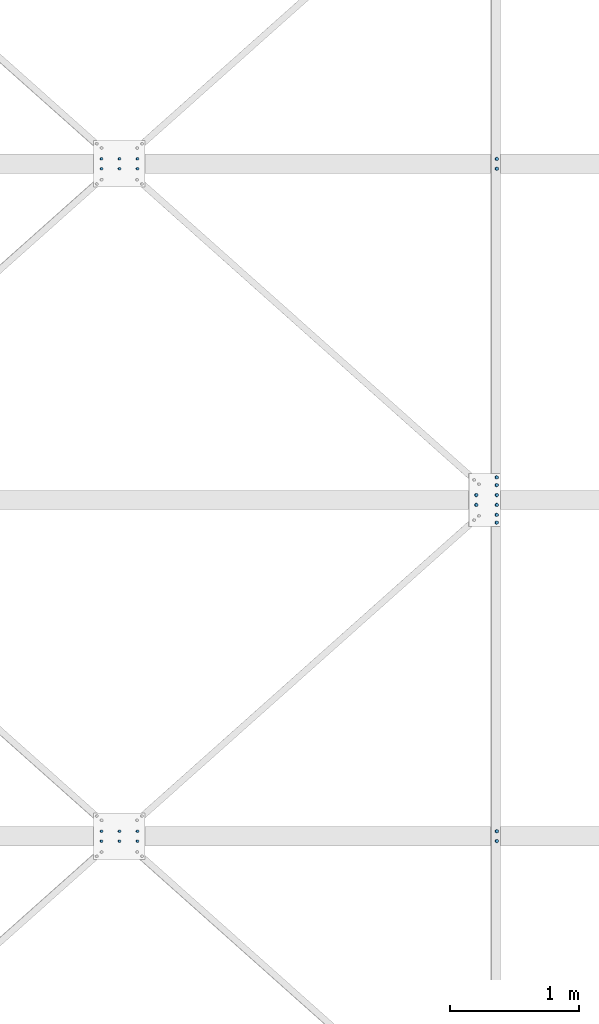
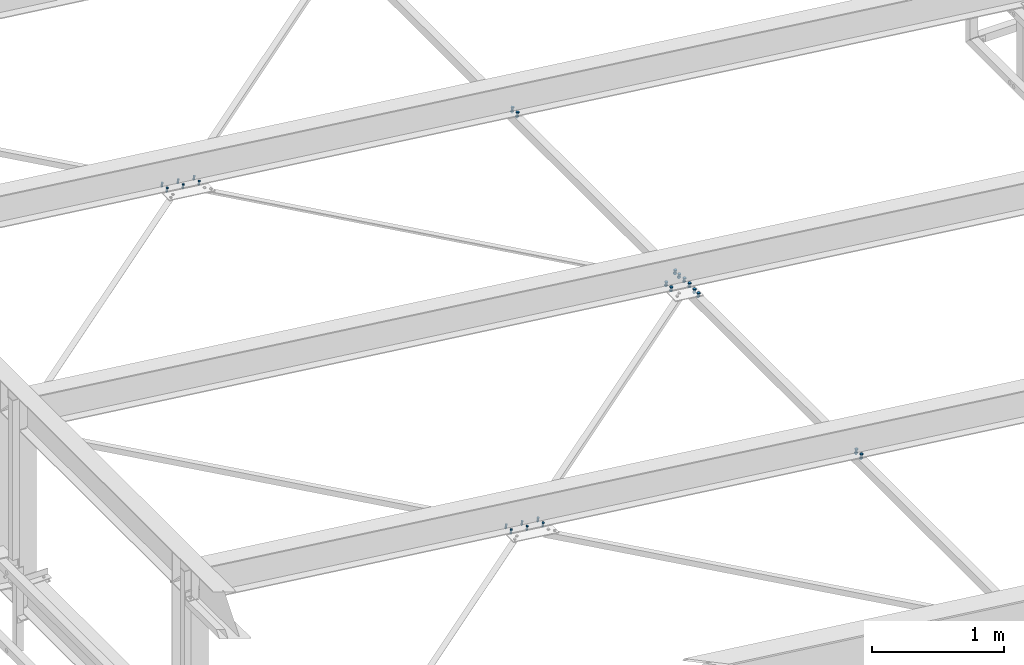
# One storey, part 154 of 3134: 7 mechanical fasteners, 6 elements without a shape of their own.
"""IFC2X3 building model written with IfcOpenShell, lengths in millimetres."""

import ifcopenshell
import ifcopenshell.guid

model = None  # the IFC model being written
_history = None  # IfcOwnerHistory: only IFC2X3 demands one
_inside = {}  # id of a spatial element -> (the spatial element, [elements in it])
_under = {}  # id of a project, library or spatial element -> (it, [spatial elements below it])
_declared = {}  # id of a project -> (the project, [libraries it declares])
_typed = {}  # id of a type object -> (the type object, [elements of that type])
_made_of = {}  # id of a material, layer set ... -> (it, [elements and type objects made of it])


def new_model(schema):
    """Start an empty IFC model of exactly this schema.

    Asked for "IFC4X3", IfcOpenShell would pick the latest addendum, in which some entities
    have other attributes; the version numbers below select the first issue.
    IFC2X3 requires an IfcOwnerHistory on every rooted entity: one is made here for all.
    """
    global model, _history
    if schema == "IFC4X3":
        model = ifcopenshell.file(schema_version=(4, 3, 0, 0))
    else:
        model = ifcopenshell.file(schema=schema)
    _inside.clear()
    _under.clear()
    _declared.clear()
    _typed.clear()
    _made_of.clear()
    _history = None
    if model.schema == "IFC2X3":
        org = make("IfcOrganization", Name="unknown")
        user = make(
            "IfcPersonAndOrganization",
            ThePerson=make("IfcPerson", FamilyName="unknown"),
            TheOrganization=org,
        )
        app = make(
            "IfcApplication",
            ApplicationDeveloper=org,
            Version="unknown",
            ApplicationFullName="unknown",
            ApplicationIdentifier="unknown",
        )
        _history = make(
            "IfcOwnerHistory",
            OwningUser=user,
            OwningApplication=app,
            ChangeAction="ADDED",
            CreationDate=0,
        )
    return model


def make(cls, **values):
    """One entity of the class cls with the attributes given. An attribute that is None is left unset."""
    return model.create_entity(
        cls, **{name: value for name, value in values.items() if value is not None}
    )


def rooted(cls, **values):
    """An entity with a GlobalId (a new one), such as an element, a storey or a relation."""
    return make(cls, GlobalId=ifcopenshell.guid.new(), OwnerHistory=_history, **values)


def si_unit(unit_type, name, prefix=None):
    """IfcSIUnit, for example si_unit("LENGTHUNIT", "METRE", prefix="MILLI")."""
    return make("IfcSIUnit", UnitType=unit_type, Prefix=prefix, Name=name)


def assignment(units):
    """IfcUnitAssignment: the units of a project."""
    return None if units is None else make("IfcUnitAssignment", Units=units)


def point(xyz):
    """IfcCartesianPoint."""
    return None if xyz is None else make("IfcCartesianPoint", Coordinates=xyz)


def direction(xyz):
    """IfcDirection."""
    return None if xyz is None else make("IfcDirection", DirectionRatios=xyz)


def frame(location, z_axis=None, x_axis=None):
    """IfcAxis2Placement3D, a coordinate frame: its origin and axes. An axis left out is left unset."""
    return make(
        "IfcAxis2Placement3D",
        Location=point(location),
        Axis=direction(z_axis),
        RefDirection=direction(x_axis),
    )


def origin_with_axes():
    """The frame at (0, 0, 0) with the z axis (0, 0, 1) and the x axis (1, 0, 0) written out."""
    return frame((0.0, 0.0, 0.0), z_axis=(0.0, 0.0, 1.0), x_axis=(1.0, 0.0, 0.0))


def place(relative_to, where):
    """IfcLocalPlacement: puts the frame where relative to a parent placement (None: the world)."""
    return make(
        "IfcLocalPlacement", PlacementRelTo=relative_to, RelativePlacement=where
    )


def context(
    kind, dimensions, precision=None, world=None, true_north=None, identifier=None
):
    """IfcGeometricRepresentationContext, for example the 3D "Model" context."""
    return make(
        "IfcGeometricRepresentationContext",
        ContextIdentifier=identifier,
        ContextType=kind,
        CoordinateSpaceDimension=dimensions,
        Precision=precision,
        WorldCoordinateSystem=world,
        TrueNorth=true_north,
    )


def subcontext(parent, identifier, kind, view, scale=None):
    """IfcGeometricRepresentationSubContext, for example "Body" below "Model"."""
    return make(
        "IfcGeometricRepresentationSubContext",
        ContextIdentifier=identifier,
        ContextType=kind,
        ParentContext=parent,
        TargetScale=scale,
        TargetView=view,
    )


def project(units=None, contexts=None):
    """IfcProject with its units and contexts."""
    return rooted(
        "IfcProject",
        Name="project",
        RepresentationContexts=contexts,
        UnitsInContext=assignment(units),
    )


def spatial(cls, under=None, at=None, **own):
    """A site, building, storey or space (cls), placed at a placement, below another one or the project."""
    s = rooted(cls, ObjectPlacement=at, **own)
    if under is not None:
        _under.setdefault(under.id(), (under, []))[1].append(s)
    return s


def faces_of(points, faces, orient=None, outer=None):
    """IfcFace entities. A face is a list of loops; a loop is a list of indices into points, from 0.

    orient and outer hold one flag for each loop. By default every Orientation is true, the
    first loop of a face is its IfcFaceOuterBound and the others are IfcFaceBound.
    """
    made = []
    for i, loops in enumerate(faces):
        bounds = []
        for j, loop in enumerate(loops):
            is_outer = j == 0 if outer is None else outer[i][j]
            bounds.append(
                make(
                    "IfcFaceOuterBound" if is_outer else "IfcFaceBound",
                    Bound=make("IfcPolyLoop", Polygon=[points[k] for k in loop]),
                    Orientation=True if orient is None else orient[i][j],
                )
            )
        made.append(make("IfcFace", Bounds=bounds))
    return made


def faceted_brep(points, faces, orient=None, outer=None, voids=None):
    """IfcFacetedBrep: a solid bounded by flat faces; with voids (closed shells), ...WithVoids."""
    shared = [point(p) for p in points]
    hull = make("IfcClosedShell", CfsFaces=faces_of(shared, faces, orient, outer))
    if voids is None:
        return make("IfcFacetedBrep", Outer=hull)
    return make(
        "IfcFacetedBrepWithVoids",
        Outer=hull,
        Voids=[
            make(cls, CfsFaces=faces_of(shared, fs, o, b)) for cls, fs, o, b in voids
        ],
    )


def shape(context_of_items, identifier, shape_type, items):
    """IfcShapeRepresentation: the items that make up one representation, for example the "Body"."""
    return make(
        "IfcShapeRepresentation",
        ContextOfItems=context_of_items,
        RepresentationIdentifier=identifier,
        RepresentationType=shape_type,
        Items=items,
    )


def source(mapping_origin, context_of_items, identifier, shape_type, items):
    """IfcRepresentationMap: a shape defined once, which mapped items show again and again."""
    return make(
        "IfcRepresentationMap",
        MappingOrigin=mapping_origin,
        MappedRepresentation=shape(context_of_items, identifier, shape_type, items),
    )


def transform(
    local_origin,
    x_axis=None,
    y_axis=None,
    z_axis=None,
    scale=None,
    scale2=None,
    scale3=None,
    uniform=True,
):
    """IfcCartesianTransformationOperator3D, or its non-uniform kind. x_axis, y_axis, z_axis: its Axis1, 2, 3."""
    if uniform:
        return make(
            "IfcCartesianTransformationOperator3D",
            Axis1=direction(x_axis),
            Axis2=direction(y_axis),
            LocalOrigin=point(local_origin),
            Scale=scale,
            Axis3=direction(z_axis),
        )
    return make(
        "IfcCartesianTransformationOperator3DnonUniform",
        Axis1=direction(x_axis),
        Axis2=direction(y_axis),
        LocalOrigin=point(local_origin),
        Scale=scale,
        Axis3=direction(z_axis),
        Scale2=scale2,
        Scale3=scale3,
    )


def mapped(mapping_source, mapping_target):
    """IfcMappedItem: shows the shape of a source again, moved by a transform."""
    return make(
        "IfcMappedItem", MappingSource=mapping_source, MappingTarget=mapping_target
    )


def material(Name=None, Category=None):
    """IfcMaterial."""
    return make("IfcMaterial", Name=Name, Category=Category)


def made_of(thing, what):
    """Note that an element or type object is made of a material, layer set ...; save() writes the relation."""
    if what is not None:
        _made_of.setdefault(what.id(), (what, []))[1].append(thing)
    return thing


def type_object(cls, material=None, **own):
    """A type object (cls), such as IfcWallType, which elements share."""
    return made_of(rooted(cls, **own), material)


def element(
    cls,
    number,
    at=None,
    inside=None,
    cuts=None,
    type_object=None,
    material=None,
    context=None,
    identifier="Body",
    shape_type=None,
    held_by="IfcProductDefinitionShape",
    body=None,
    shapes=None,
    **own,
):
    """One element of the class cls, such as IfcWall. Its Tag is "e" and its number.

    at: its placement. inside: the storey or other place that contains it. cuts: it is an
    opening in that element (IfcRelVoidsElement). A single representation is given by context,
    identifier, shape_type and body (its items); several are given by shapes. held_by: the class
    of the entity that holds the representations. save() writes the other relations.
    """
    e = rooted(cls, Tag="e%d" % number, ObjectPlacement=at, **own)
    if body is not None:
        shapes = [shape(context, identifier, shape_type, body)]
    if shapes is not None:
        e.Representation = make(held_by, Representations=shapes)
    if inside is not None:
        _inside.setdefault(inside.id(), (inside, []))[1].append(e)
    if cuts is not None:
        rooted(
            "IfcRelVoidsElement", RelatingBuildingElement=cuts, RelatedOpeningElement=e
        )
    if type_object is not None:
        _typed.setdefault(type_object.id(), (type_object, []))[1].append(e)
    return made_of(e, material)


def aggregate(whole, parts):
    """IfcRelAggregates: a whole, such as a stair, and the parts it consists of."""
    return rooted("IfcRelAggregates", RelatingObject=whole, RelatedObjects=parts)


def save(model, path):
    """Write the relations noted so far, then the file.

    IfcRelAggregates (storeys below a building ...), IfcRelContainedInSpatialStructure (elements
    in a storey), IfcRelDefinesByType, IfcRelAssociatesMaterial and IfcRelDeclares: one each for
    every whole, place, type object, material and project.
    """
    for whole, parts in _under.values():
        aggregate(whole, parts)
    for where, things in _inside.values():
        rooted(
            "IfcRelContainedInSpatialStructure",
            RelatedElements=things,
            RelatingStructure=where,
        )
    for kind, things in _typed.values():
        rooted("IfcRelDefinesByType", RelatedObjects=things, RelatingType=kind)
    for what, things in _made_of.values():
        rooted("IfcRelAssociatesMaterial", RelatedObjects=things, RelatingMaterial=what)
    for by, libraries in _declared.values():
        rooted("IfcRelDeclares", RelatingContext=by, RelatedDefinitions=libraries)
    model.write(path)


model = new_model("IFC2X3")

# Units and contexts
model_context = context("Model", 3, precision=1e-05, world=origin_with_axes())
body_context = subcontext(model_context, "Body", "Model", "MODEL_VIEW")
ifc_project = project(units=[si_unit("LENGTHUNIT", "METRE", prefix="MILLI"), si_unit("AREAUNIT", "SQUARE_METRE"), si_unit("VOLUMEUNIT", "CUBIC_METRE"), si_unit("MASSUNIT", "GRAM", prefix="KILO"), si_unit("TIMEUNIT", "SECOND"), si_unit("PLANEANGLEUNIT", "RADIAN"), si_unit("SOLIDANGLEUNIT", "STERADIAN"), si_unit("THERMODYNAMICTEMPERATUREUNIT", "DEGREE_CELSIUS"), si_unit("LUMINOUSINTENSITYUNIT", "LUMEN")], contexts=[model_context])

# Site, building, storey
site_placement = place(None, origin_with_axes())
site = spatial("IfcSite", under=ifc_project, at=site_placement, CompositionType="ELEMENT")
building_placement = place(site_placement, origin_with_axes())
building = spatial("IfcBuilding", under=site, at=building_placement, Name="Undefined", CompositionType="ELEMENT")
storey_placement = place(building_placement, origin_with_axes())
storey = spatial("IfcBuildingStorey", under=building, at=storey_placement, Name="Undefined", CompositionType="ELEMENT", Elevation=0.0)

# Assembly, mechanical fastener
assembly_1_placement = place(storey_placement, origin_with_axes())
assembly_1 = element("IfcElementAssembly", 1, at=assembly_1_placement, inside=storey, Name="300", AssemblyPlace="NOTDEFINED", PredefinedType="RIGID_FRAME")
ifc_material = material(Name="8.8")
mechanical_fastener_type = type_object("IfcMechanicalFastenerType", Name="Bolt assembly")
shared_shape_1 = source(origin_with_axes(), body_context, "Body", "Brep", [
    faceted_brep([(13.856406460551, -19.199990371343, 0.0), (6.92820323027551, -19.199990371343, 12.0), (-6.92820323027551, -19.199990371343, 12.0), (-13.856406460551, -19.199990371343, 1.69692038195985e-15), (-6.92820323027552, -19.199990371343, -12.0), (6.9282032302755, -19.199990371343, -12.0), (6.9282032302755, -9.19999037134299, -12.0), (-6.92820323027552, -9.19999037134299, -12.0), (-13.856406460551, -9.19999037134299, 1.69692038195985e-15), (-6.92820323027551, -9.19999037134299, 12.0), (6.92820323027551, -9.19999037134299, 12.0), (13.856406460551, -9.19999037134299, 0.0), (8.0, -9.19999037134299, 0.0), (6.92820323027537, -9.19999037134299, 4.00000000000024), (3.99999999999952, -9.19999037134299, 6.92820323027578), (-8.29068785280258e-13, -9.19999037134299, 8.0), (-4.00000000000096, -9.19999037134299, 6.92820323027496), (-6.9282032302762, -9.19999037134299, 3.99999999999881), (-8.0, -9.19999037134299, -1.65813757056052e-12), (-6.92820323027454, -9.19999037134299, -4.00000000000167), (-3.99999999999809, -9.19999037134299, -6.92820323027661), (2.47832457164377e-12, -9.19999037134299, -8.0), (4.00000000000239, -9.19999037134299, -6.92820323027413), (6.92820323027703, -9.19999037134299, -3.99999999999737), (6.92820323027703, 25.800009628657, -3.99999999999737), (4.00000000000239, 25.800009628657, -6.92820323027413), (2.47832457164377e-12, 25.800009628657, -8.0), (-3.99999999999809, 25.800009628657, -6.92820323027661), (-6.92820323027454, 25.800009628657, -4.00000000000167), (-8.0, 25.800009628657, -1.65813757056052e-12), (-6.9282032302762, 25.800009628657, 3.99999999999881), (-4.00000000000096, 25.800009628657, 6.92820323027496), (-8.29068785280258e-13, 25.800009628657, 8.0), (3.99999999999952, 25.800009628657, 6.92820323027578), (6.92820323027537, 25.800009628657, 4.00000000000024), (8.0, 25.800009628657, 0.0), (13.856406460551, 8.00000637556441, 0.0), (6.92820323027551, 8.00000637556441, 12.0), (-6.92820323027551, 8.00000637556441, 12.0), (-13.856406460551, 8.00000637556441, 1.69692038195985e-15), (-6.92820323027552, 8.00000637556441, -12.0), (6.9282032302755, 8.00000637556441, -12.0), (6.9282032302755, 21.0000063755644, -12.0), (-6.92820323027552, 21.0000063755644, -12.0), (-13.856406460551, 21.0000063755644, 1.69692038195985e-15), (-6.92820323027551, 21.0000063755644, 12.0), (6.92820323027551, 21.0000063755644, 12.0), (13.856406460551, 21.0000063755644, 0.0)], [[[0, 1, 2, 3, 4, 5]], [[6, 7, 8, 9, 10, 11]], [[0, 11, 10, 1]], [[1, 10, 9, 2]], [[2, 9, 8, 3]], [[3, 8, 7, 4]], [[4, 7, 6, 5]], [[5, 6, 11, 0]], [[12, 13, 14, 15, 16, 17, 18, 19, 20, 21, 22, 23]], [[24, 25, 26, 27, 28, 29, 30, 31, 32, 33, 34, 35]], [[12, 35, 34, 13]], [[13, 34, 33, 14]], [[14, 33, 32, 15]], [[15, 32, 31, 16]], [[16, 31, 30, 17]], [[17, 30, 29, 18]], [[18, 29, 28, 19]], [[19, 28, 27, 20]], [[20, 27, 26, 21]], [[21, 26, 25, 22]], [[22, 25, 24, 23]], [[23, 24, 35, 12]], [[36, 37, 38, 39, 40, 41]], [[42, 43, 44, 45, 46, 47]], [[36, 47, 46, 37]], [[37, 46, 45, 38]], [[38, 45, 44, 39]], [[39, 44, 43, 40]], [[40, 43, 42, 41]], [[41, 42, 47, 36]]]),
    faceted_brep([(9.0, -0.1, 0.0), (7.79422863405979, -0.1, 4.50000000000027), (4.49999999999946, -0.1, 7.79422863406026), (-9.3270238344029e-13, -0.1, 9.0), (-4.50000000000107, -0.1, 7.79422863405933), (-7.79422863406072, -0.1, 4.49999999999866), (-9.0, -0.1, -1.86540476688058e-12), (-7.79422863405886, -0.1, -4.50000000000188), (-4.49999999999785, -0.1, -7.79422863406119), (2.78811514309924e-12, -0.1, -9.0), (4.50000000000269, -0.1, -7.7942286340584), (7.79422863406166, -0.1, -4.49999999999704), (7.79422863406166, 8.00000000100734, -4.49999999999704), (4.50000000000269, 8.00000000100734, -7.7942286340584), (2.78811514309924e-12, 8.00000000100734, -9.0), (-4.49999999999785, 8.00000000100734, -7.79422863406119), (-7.79422863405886, 8.00000000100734, -4.50000000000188), (-9.0, 8.00000000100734, -1.86540476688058e-12), (-7.79422863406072, 8.00000000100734, 4.49999999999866), (-4.50000000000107, 8.00000000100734, 7.79422863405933), (-9.3270238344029e-13, 8.00000000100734, 9.0), (4.49999999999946, 8.00000000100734, 7.79422863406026), (7.79422863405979, 8.00000000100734, 4.50000000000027), (9.0, 8.00000000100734, 0.0), (9.0, -9.09999037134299, 0.0), (7.79422863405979, -9.09999037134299, 4.50000000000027), (4.49999999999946, -9.09999037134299, 7.79422863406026), (-9.3270238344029e-13, -9.09999037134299, 9.0), (-4.50000000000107, -9.09999037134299, 7.79422863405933), (-7.79422863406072, -9.09999037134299, 4.49999999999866), (-9.0, -9.09999037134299, -1.86540476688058e-12), (-7.79422863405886, -9.09999037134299, -4.50000000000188), (-4.49999999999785, -9.09999037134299, -7.79422863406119), (2.78811514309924e-12, -9.09999037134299, -9.0), (4.50000000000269, -9.09999037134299, -7.7942286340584), (7.79422863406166, -9.09999037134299, -4.49999999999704), (7.79422863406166, 0.100000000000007, -4.49999999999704), (4.50000000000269, 0.100000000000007, -7.7942286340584), (2.78811514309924e-12, 0.100000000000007, -9.0), (-4.49999999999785, 0.100000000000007, -7.79422863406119), (-7.79422863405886, 0.100000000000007, -4.50000000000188), (-9.0, 0.100000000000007, -1.86540476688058e-12), (-7.79422863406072, 0.100000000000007, 4.49999999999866), (-4.50000000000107, 0.100000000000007, 7.79422863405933), (-9.3270238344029e-13, 0.100000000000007, 9.0), (4.49999999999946, 0.100000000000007, 7.79422863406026), (7.79422863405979, 0.100000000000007, 4.50000000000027), (9.0, 0.100000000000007, 0.0)], [[[0, 1, 2, 3, 4, 5, 6, 7, 8, 9, 10, 11]], [[12, 13, 14, 15, 16, 17, 18, 19, 20, 21, 22, 23]], [[0, 23, 22, 1]], [[1, 22, 21, 2]], [[2, 21, 20, 3]], [[3, 20, 19, 4]], [[4, 19, 18, 5]], [[5, 18, 17, 6]], [[6, 17, 16, 7]], [[7, 16, 15, 8]], [[8, 15, 14, 9]], [[9, 14, 13, 10]], [[10, 13, 12, 11]], [[11, 12, 23, 0]], [[24, 25, 26, 27, 28, 29, 30, 31, 32, 33, 34, 35]], [[36, 37, 38, 39, 40, 41, 42, 43, 44, 45, 46, 47]], [[24, 47, 46, 25]], [[25, 46, 45, 26]], [[26, 45, 44, 27]], [[27, 44, 43, 28]], [[28, 43, 42, 29]], [[29, 42, 41, 30]], [[30, 41, 40, 31]], [[31, 40, 39, 32]], [[32, 39, 38, 33]], [[33, 38, 37, 34]], [[34, 37, 36, 35]], [[35, 36, 47, 24]]]),
])
mechanical_fastener_1_placement = place(assembly_1_placement, frame((49958.5751064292, 24612.0, 4816.43281405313), z_axis=(-0.992623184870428, 0.0, 0.121240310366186), x_axis=(0.0, 1.0, 0.0)))
mechanical_fastener_1 = element("IfcMechanicalFastener", 2, at=mechanical_fastener_1_placement, type_object=mechanical_fastener_type, material=ifc_material, Name="Bolt assembly", NominalDiameter=16.0, NominalLength=35.0, context=body_context, shape_type="MappedRepresentation", body=[
    mapped(shared_shape_1, transform((0.0, -5.32963895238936e-10, -79.9999999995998))),
    mapped(shared_shape_1, transform((76.0, -5.32963895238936e-10, -79.9999999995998))),
    mapped(shared_shape_1, transform((0.0, 5.3114490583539e-10, 79.9999999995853))),
    mapped(shared_shape_1, transform((76.0, 5.3114490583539e-10, 79.9999999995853))),
])
aggregate(assembly_1, [mechanical_fastener_1])

assembly_2_placement = place(storey_placement, origin_with_axes())
assembly_2 = element("IfcElementAssembly", 3, at=assembly_2_placement, inside=storey, AssemblyPlace="NOTDEFINED", PredefinedType="RIGID_FRAME")
shared_shape_2 = source(origin_with_axes(), body_context, "Body", "Brep", [
    faceted_brep([(13.856406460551, -19.199990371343, 0.0), (6.92820323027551, -19.199990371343, 12.0), (-6.92820323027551, -19.199990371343, 12.0), (-13.856406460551, -19.199990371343, 1.69692038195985e-15), (-6.92820323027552, -19.199990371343, -12.0), (6.9282032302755, -19.199990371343, -12.0), (6.9282032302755, -9.19999037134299, -12.0), (-6.92820323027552, -9.19999037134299, -12.0), (-13.856406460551, -9.19999037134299, 1.69692038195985e-15), (-6.92820323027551, -9.19999037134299, 12.0), (6.92820323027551, -9.19999037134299, 12.0), (13.856406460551, -9.19999037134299, 0.0), (8.0, -9.19999037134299, 0.0), (6.92820323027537, -9.19999037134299, 4.00000000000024), (3.99999999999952, -9.19999037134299, 6.92820323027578), (-8.29068785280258e-13, -9.19999037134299, 8.0), (-4.00000000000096, -9.19999037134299, 6.92820323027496), (-6.9282032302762, -9.19999037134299, 3.99999999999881), (-8.0, -9.19999037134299, -1.65813757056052e-12), (-6.92820323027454, -9.19999037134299, -4.00000000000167), (-3.99999999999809, -9.19999037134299, -6.92820323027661), (2.47832457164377e-12, -9.19999037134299, -8.0), (4.00000000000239, -9.19999037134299, -6.92820323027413), (6.92820323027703, -9.19999037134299, -3.99999999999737), (6.92820323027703, 35.8000002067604, -3.99999999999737), (4.00000000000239, 35.8000002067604, -6.92820323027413), (2.47832457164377e-12, 35.8000002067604, -8.0), (-3.99999999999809, 35.8000002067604, -6.92820323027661), (-6.92820323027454, 35.8000002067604, -4.00000000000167), (-8.0, 35.8000002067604, -1.65813757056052e-12), (-6.9282032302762, 35.8000002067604, 3.99999999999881), (-4.00000000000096, 35.8000002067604, 6.92820323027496), (-8.29068785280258e-13, 35.8000002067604, 8.0), (3.99999999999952, 35.8000002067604, 6.92820323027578), (6.92820323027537, 35.8000002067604, 4.00000000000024), (8.0, 35.8000002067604, 0.0), (13.856406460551, 14.9999995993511, 0.0), (6.92820323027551, 14.9999995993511, 12.0), (-6.92820323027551, 14.9999995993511, 12.0), (-13.856406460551, 14.9999995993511, 1.69692038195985e-15), (-6.92820323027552, 14.9999995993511, -12.0), (6.9282032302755, 14.9999995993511, -12.0), (6.9282032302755, 27.9999995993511, -12.0), (-6.92820323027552, 27.9999995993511, -12.0), (-13.856406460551, 27.9999995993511, 1.69692038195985e-15), (-6.92820323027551, 27.9999995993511, 12.0), (6.92820323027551, 27.9999995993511, 12.0), (13.856406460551, 27.9999995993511, 0.0)], [[[0, 1, 2, 3, 4, 5]], [[6, 7, 8, 9, 10, 11]], [[0, 11, 10, 1]], [[1, 10, 9, 2]], [[2, 9, 8, 3]], [[3, 8, 7, 4]], [[4, 7, 6, 5]], [[5, 6, 11, 0]], [[12, 13, 14, 15, 16, 17, 18, 19, 20, 21, 22, 23]], [[24, 25, 26, 27, 28, 29, 30, 31, 32, 33, 34, 35]], [[12, 35, 34, 13]], [[13, 34, 33, 14]], [[14, 33, 32, 15]], [[15, 32, 31, 16]], [[16, 31, 30, 17]], [[17, 30, 29, 18]], [[18, 29, 28, 19]], [[19, 28, 27, 20]], [[20, 27, 26, 21]], [[21, 26, 25, 22]], [[22, 25, 24, 23]], [[23, 24, 35, 12]], [[36, 37, 38, 39, 40, 41]], [[42, 43, 44, 45, 46, 47]], [[36, 47, 46, 37]], [[37, 46, 45, 38]], [[38, 45, 44, 39]], [[39, 44, 43, 40]], [[40, 43, 42, 41]], [[41, 42, 47, 36]]]),
    faceted_brep([(9.0, -9.09999037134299, 0.0), (7.79422863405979, -9.09999037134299, 4.50000000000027), (4.49999999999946, -9.09999037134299, 7.79422863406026), (-9.3270238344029e-13, -9.09999037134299, 9.0), (-4.50000000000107, -9.09999037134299, 7.79422863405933), (-7.79422863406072, -9.09999037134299, 4.49999999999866), (-9.0, -9.09999037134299, -1.86540476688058e-12), (-7.79422863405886, -9.09999037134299, -4.50000000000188), (-4.49999999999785, -9.09999037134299, -7.79422863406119), (2.78811514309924e-12, -9.09999037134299, -9.0), (4.50000000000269, -9.09999037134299, -7.7942286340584), (7.79422863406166, -9.09999037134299, -4.49999999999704), (7.79422863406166, 0.100000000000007, -4.49999999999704), (4.50000000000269, 0.100000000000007, -7.7942286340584), (2.78811514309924e-12, 0.100000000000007, -9.0), (-4.49999999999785, 0.100000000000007, -7.79422863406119), (-7.79422863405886, 0.100000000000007, -4.50000000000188), (-9.0, 0.100000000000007, -1.86540476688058e-12), (-7.79422863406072, 0.100000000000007, 4.49999999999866), (-4.50000000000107, 0.100000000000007, 7.79422863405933), (-9.3270238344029e-13, 0.100000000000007, 9.0), (4.49999999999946, 0.100000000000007, 7.79422863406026), (7.79422863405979, 0.100000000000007, 4.50000000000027), (9.0, 0.100000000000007, 0.0), (9.0, 7.9, 0.0), (7.79422863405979, 7.9, 4.50000000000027), (4.49999999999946, 7.9, 7.79422863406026), (-9.3270238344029e-13, 7.9, 9.0), (-4.50000000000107, 7.9, 7.79422863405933), (-7.79422863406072, 7.9, 4.49999999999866), (-9.0, 7.9, -1.86540476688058e-12), (-7.79422863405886, 7.9, -4.50000000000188), (-4.49999999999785, 7.9, -7.79422863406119), (2.78811514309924e-12, 7.9, -9.0), (4.50000000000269, 7.9, -7.7942286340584), (7.79422863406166, 7.9, -4.49999999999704), (7.79422863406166, 14.9999995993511, -4.49999999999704), (4.50000000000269, 14.9999995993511, -7.7942286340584), (2.78811514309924e-12, 14.9999995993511, -9.0), (-4.49999999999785, 14.9999995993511, -7.79422863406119), (-7.79422863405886, 14.9999995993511, -4.50000000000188), (-9.0, 14.9999995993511, -1.86540476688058e-12), (-7.79422863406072, 14.9999995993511, 4.49999999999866), (-4.50000000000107, 14.9999995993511, 7.79422863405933), (-9.3270238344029e-13, 14.9999995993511, 9.0), (4.49999999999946, 14.9999995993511, 7.79422863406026), (7.79422863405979, 14.9999995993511, 4.50000000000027), (9.0, 14.9999995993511, 0.0)], [[[0, 1, 2, 3, 4, 5, 6, 7, 8, 9, 10, 11]], [[12, 13, 14, 15, 16, 17, 18, 19, 20, 21, 22, 23]], [[0, 23, 22, 1]], [[1, 22, 21, 2]], [[2, 21, 20, 3]], [[3, 20, 19, 4]], [[4, 19, 18, 5]], [[5, 18, 17, 6]], [[6, 17, 16, 7]], [[7, 16, 15, 8]], [[8, 15, 14, 9]], [[9, 14, 13, 10]], [[10, 13, 12, 11]], [[11, 12, 23, 0]], [[24, 25, 26, 27, 28, 29, 30, 31, 32, 33, 34, 35]], [[36, 37, 38, 39, 40, 41, 42, 43, 44, 45, 46, 47]], [[24, 47, 46, 25]], [[25, 46, 45, 26]], [[26, 45, 44, 27]], [[27, 44, 43, 28]], [[28, 43, 42, 29]], [[29, 42, 41, 30]], [[30, 41, 40, 31]], [[31, 40, 39, 32]], [[32, 39, 38, 33]], [[33, 38, 37, 34]], [[34, 37, 36, 35]], [[35, 36, 47, 24]]]),
])
mechanical_fastener_2_placement = place(assembly_2_placement, frame((50037.9849612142, 22012.0, 4806.73358922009), z_axis=(-0.992623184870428, 0.0, 0.121240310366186), x_axis=(0.0, 1.0, 0.0)))
mechanical_fastener_2 = element("IfcMechanicalFastener", 4, at=mechanical_fastener_2_placement, type_object=mechanical_fastener_type, material=ifc_material, Name="Bolt assembly", NominalDiameter=16.0, NominalLength=45.0, context=body_context, shape_type="MappedRepresentation", body=[
    mapped(shared_shape_2, transform((0.0, 0.0, 0.0))),
    mapped(shared_shape_2, transform((76.0, 0.0, 0.0))),
])
aggregate(assembly_2, [mechanical_fastener_2])

assembly_3_placement = place(storey_placement, origin_with_axes())
assembly_3 = element("IfcElementAssembly", 5, at=assembly_3_placement, inside=storey, AssemblyPlace="NOTDEFINED", PredefinedType="RIGID_FRAME")
mechanical_fastener_3_placement = place(assembly_3_placement, frame((50037.9849612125, 27212.0, 4806.73358922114), z_axis=(-0.992623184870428, 0.0, 0.121240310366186), x_axis=(0.0, 1.0, 0.0)))
mechanical_fastener_3 = element("IfcMechanicalFastener", 6, at=mechanical_fastener_3_placement, type_object=mechanical_fastener_type, material=ifc_material, Name="Bolt assembly", NominalDiameter=16.0, NominalLength=45.0, context=body_context, shape_type="MappedRepresentation", body=[
    mapped(shared_shape_2, transform((0.0, 0.0, 0.0))),
    mapped(shared_shape_2, transform((76.0, 0.0, 0.0))),
])
aggregate(assembly_3, [mechanical_fastener_3])

# Assembly, mechanical fasteners
assembly_4_placement = place(storey_placement, origin_with_axes())
assembly_4 = element("IfcElementAssembly", 7, at=assembly_4_placement, inside=storey, Name="PL8", AssemblyPlace="NOTDEFINED", PredefinedType="RIGID_FRAME")
shared_shape_3 = source(origin_with_axes(), body_context, "Body", "Brep", [
    faceted_brep([(13.856406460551, -10.0, 0.0), (6.92820323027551, -10.0, 12.0), (-6.92820323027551, -10.0, 12.0), (-13.856406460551, -10.0, 1.69692038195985e-15), (-6.92820323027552, -10.0, -12.0), (6.9282032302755, -10.0, -12.0), (6.9282032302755, 0.0, -12.0), (-6.92820323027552, 0.0, -12.0), (-13.856406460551, 0.0, 1.69692038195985e-15), (-6.92820323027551, 0.0, 12.0), (6.92820323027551, 0.0, 12.0), (13.856406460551, 0.0, 0.0), (8.0, 0.0, 0.0), (6.92820323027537, 0.0, 4.00000000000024), (3.99999999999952, 0.0, 6.92820323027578), (-8.29068785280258e-13, 0.0, 8.0), (-4.00000000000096, 0.0, 6.92820323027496), (-6.9282032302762, 0.0, 3.99999999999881), (-8.0, 0.0, -1.65813757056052e-12), (-6.92820323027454, 0.0, -4.00000000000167), (-3.99999999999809, 0.0, -6.92820323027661), (2.47832457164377e-12, 0.0, -8.0), (4.00000000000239, 0.0, -6.92820323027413), (6.92820323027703, 0.0, -3.99999999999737), (6.92820323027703, 35.0000000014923, -3.99999999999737), (4.00000000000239, 35.0000000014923, -6.92820323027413), (2.47832457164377e-12, 35.0000000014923, -8.0), (-3.99999999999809, 35.0000000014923, -6.92820323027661), (-6.92820323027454, 35.0000000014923, -4.00000000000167), (-8.0, 35.0000000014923, -1.65813757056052e-12), (-6.9282032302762, 35.0000000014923, 3.99999999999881), (-4.00000000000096, 35.0000000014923, 6.92820323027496), (-8.29068785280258e-13, 35.0000000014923, 8.0), (3.99999999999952, 35.0000000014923, 6.92820323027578), (6.92820323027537, 35.0000000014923, 4.00000000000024), (8.0, 35.0000000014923, 0.0), (13.856406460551, 14.9999995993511, 0.0), (6.92820323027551, 14.9999995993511, 12.0), (-6.92820323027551, 14.9999995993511, 12.0), (-13.856406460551, 14.9999995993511, 1.69692038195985e-15), (-6.92820323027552, 14.9999995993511, -12.0), (6.9282032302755, 14.9999995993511, -12.0), (6.9282032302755, 27.9999995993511, -12.0), (-6.92820323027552, 27.9999995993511, -12.0), (-13.856406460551, 27.9999995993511, 1.69692038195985e-15), (-6.92820323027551, 27.9999995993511, 12.0), (6.92820323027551, 27.9999995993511, 12.0), (13.856406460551, 27.9999995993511, 0.0)], [[[0, 1, 2, 3, 4, 5]], [[6, 7, 8, 9, 10, 11]], [[0, 11, 10, 1]], [[1, 10, 9, 2]], [[2, 9, 8, 3]], [[3, 8, 7, 4]], [[4, 7, 6, 5]], [[5, 6, 11, 0]], [[12, 13, 14, 15, 16, 17, 18, 19, 20, 21, 22, 23]], [[24, 25, 26, 27, 28, 29, 30, 31, 32, 33, 34, 35]], [[12, 35, 34, 13]], [[13, 34, 33, 14]], [[14, 33, 32, 15]], [[15, 32, 31, 16]], [[16, 31, 30, 17]], [[17, 30, 29, 18]], [[18, 29, 28, 19]], [[19, 28, 27, 20]], [[20, 27, 26, 21]], [[21, 26, 25, 22]], [[22, 25, 24, 23]], [[23, 24, 35, 12]], [[36, 37, 38, 39, 40, 41]], [[42, 43, 44, 45, 46, 47]], [[36, 47, 46, 37]], [[37, 46, 45, 38]], [[38, 45, 44, 39]], [[39, 44, 43, 40]], [[40, 43, 42, 41]], [[41, 42, 47, 36]]]),
    faceted_brep([(9.0, 7.9, 0.0), (7.79422863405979, 7.9, 4.50000000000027), (4.49999999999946, 7.9, 7.79422863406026), (-9.3270238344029e-13, 7.9, 9.0), (-4.50000000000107, 7.9, 7.79422863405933), (-7.79422863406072, 7.9, 4.49999999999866), (-9.0, 7.9, -1.86540476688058e-12), (-7.79422863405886, 7.9, -4.50000000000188), (-4.49999999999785, 7.9, -7.79422863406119), (2.78811514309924e-12, 7.9, -9.0), (4.50000000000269, 7.9, -7.7942286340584), (7.79422863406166, 7.9, -4.49999999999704), (7.79422863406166, 14.9999995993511, -4.49999999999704), (4.50000000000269, 14.9999995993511, -7.7942286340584), (2.78811514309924e-12, 14.9999995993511, -9.0), (-4.49999999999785, 14.9999995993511, -7.79422863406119), (-7.79422863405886, 14.9999995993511, -4.50000000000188), (-9.0, 14.9999995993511, -1.86540476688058e-12), (-7.79422863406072, 14.9999995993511, 4.49999999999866), (-4.50000000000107, 14.9999995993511, 7.79422863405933), (-9.3270238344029e-13, 14.9999995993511, 9.0), (4.49999999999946, 14.9999995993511, 7.79422863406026), (7.79422863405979, 14.9999995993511, 4.50000000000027), (9.0, 14.9999995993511, 0.0), (9.0, 0.100000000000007, 0.0), (7.79422863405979, 0.100000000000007, 4.50000000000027), (4.49999999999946, 0.100000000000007, 7.79422863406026), (-9.3270238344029e-13, 0.100000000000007, 9.0), (-4.50000000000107, 0.100000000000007, 7.79422863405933), (-7.79422863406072, 0.100000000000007, 4.49999999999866), (-9.0, 0.100000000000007, -1.86540476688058e-12), (-7.79422863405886, 0.100000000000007, -4.50000000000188), (-4.49999999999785, 0.100000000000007, -7.79422863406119), (2.78811514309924e-12, 0.100000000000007, -9.0), (4.50000000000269, 0.100000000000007, -7.7942286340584), (7.79422863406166, 0.100000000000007, -4.49999999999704), (7.79422863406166, 8.1, -4.49999999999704), (4.50000000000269, 8.1, -7.7942286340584), (2.78811514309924e-12, 8.1, -9.0), (-4.49999999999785, 8.1, -7.79422863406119), (-7.79422863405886, 8.1, -4.50000000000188), (-9.0, 8.1, -1.86540476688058e-12), (-7.79422863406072, 8.1, 4.49999999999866), (-4.50000000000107, 8.1, 7.79422863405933), (-9.3270238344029e-13, 8.1, 9.0), (4.49999999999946, 8.1, 7.79422863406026), (7.79422863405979, 8.1, 4.50000000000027), (9.0, 8.1, 0.0)], [[[0, 1, 2, 3, 4, 5, 6, 7, 8, 9, 10, 11]], [[12, 13, 14, 15, 16, 17, 18, 19, 20, 21, 22, 23]], [[0, 23, 22, 1]], [[1, 22, 21, 2]], [[2, 21, 20, 3]], [[3, 20, 19, 4]], [[4, 19, 18, 5]], [[5, 18, 17, 6]], [[6, 17, 16, 7]], [[7, 16, 15, 8]], [[8, 15, 14, 9]], [[9, 14, 13, 10]], [[10, 13, 12, 11]], [[11, 12, 23, 0]], [[24, 25, 26, 27, 28, 29, 30, 31, 32, 33, 34, 35]], [[36, 37, 38, 39, 40, 41, 42, 43, 44, 45, 46, 47]], [[24, 47, 46, 25]], [[25, 46, 45, 26]], [[26, 45, 44, 27]], [[27, 44, 43, 28]], [[28, 43, 42, 29]], [[29, 42, 41, 30]], [[30, 41, 40, 31]], [[31, 40, 39, 32]], [[32, 39, 38, 33]], [[33, 38, 37, 34]], [[34, 37, 36, 35]], [[35, 36, 47, 24]]]),
])
mechanical_fastener_4_placement = place(assembly_4_placement, frame((50037.9849612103, 24535.0, 4806.73358922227), z_axis=(0.992623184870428, 0.0, -0.121240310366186), x_axis=(0.0, -1.0, 0.0)))
mechanical_fastener_4 = element("IfcMechanicalFastener", 8, at=mechanical_fastener_4_placement, type_object=mechanical_fastener_type, material=ifc_material, Name="Bolt assembly", NominalDiameter=16.0, NominalLength=35.0, context=body_context, shape_type="MappedRepresentation", body=[
    mapped(shared_shape_3, transform((0.0, 0.0, 0.0))),
    mapped(shared_shape_3, transform((59.9999999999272, 0.0, 5.40239852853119e-10))),
])
mechanical_fastener_5_placement = place(assembly_4_placement, frame((50037.9849612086, 24825.0, 4806.73358922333), z_axis=(0.992623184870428, 0.0, -0.121240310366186), x_axis=(0.0, -1.0, 0.0)))
mechanical_fastener_5 = element("IfcMechanicalFastener", 9, at=mechanical_fastener_5_placement, type_object=mechanical_fastener_type, material=ifc_material, Name="Bolt assembly", NominalDiameter=16.0, NominalLength=35.0, context=body_context, shape_type="MappedRepresentation", body=[
    mapped(shared_shape_3, transform((0.0, 0.0, 0.0))),
    mapped(shared_shape_3, transform((59.9999999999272, 0.0, 5.40239852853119e-10))),
])
aggregate(assembly_4, [mechanical_fastener_4, mechanical_fastener_5])

# Assembly, mechanical fastener
assembly_5_placement = place(storey_placement, origin_with_axes())
assembly_5 = element("IfcElementAssembly", 10, at=assembly_5_placement, inside=storey, Name="300", AssemblyPlace="NOTDEFINED", PredefinedType="RIGID_FRAME")
shared_shape_4 = source(origin_with_axes(), body_context, "Body", "Brep", [
    faceted_brep([(10.9696551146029, -17.1999998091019, 0.0), (5.48482755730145, -17.1999998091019, 9.5), (-5.48482755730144, -17.1999998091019, 9.5), (-10.9696551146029, -17.1999998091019, 1.34339530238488e-15), (-5.48482755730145, -17.1999998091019, -9.5), (5.48482755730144, -17.1999998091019, -9.50000000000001), (5.48482755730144, -9.19999978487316, -9.50000000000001), (-5.48482755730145, -9.19999978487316, -9.5), (-10.9696551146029, -9.19999978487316, 1.34339530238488e-15), (-5.48482755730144, -9.19999978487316, 9.5), (5.48482755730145, -9.19999978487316, 9.5), (10.9696551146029, -9.19999978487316, 0.0), (6.0, -9.19999978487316, 0.0), (5.19615242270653, -9.19999978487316, 3.00000000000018), (2.99999999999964, -9.19999978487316, 5.19615242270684), (-6.21801588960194e-13, -9.19999978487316, 6.0), (-3.00000000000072, -9.19999978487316, 5.19615242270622), (-5.19615242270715, -9.19999978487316, 2.9999999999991), (-6.0, -9.19999978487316, -1.24360317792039e-12), (-5.19615242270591, -9.19999978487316, -3.00000000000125), (-2.99999999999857, -9.19999978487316, -5.19615242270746), (1.85874342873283e-12, -9.19999978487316, -6.0), (3.00000000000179, -9.19999978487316, -5.1961524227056), (5.19615242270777, -9.19999978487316, -2.99999999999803), (5.19615242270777, 25.8000002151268, -2.99999999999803), (3.00000000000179, 25.8000002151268, -5.1961524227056), (1.85874342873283e-12, 25.8000002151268, -6.0), (-2.99999999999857, 25.8000002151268, -5.19615242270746), (-5.19615242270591, 25.8000002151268, -3.00000000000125), (-6.0, 25.8000002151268, -1.24360317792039e-12), (-5.19615242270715, 25.8000002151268, 2.9999999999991), (-3.00000000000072, 25.8000002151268, 5.19615242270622), (-6.21801588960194e-13, 25.8000002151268, 6.0), (2.99999999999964, 25.8000002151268, 5.19615242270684), (5.19615242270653, 25.8000002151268, 3.00000000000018), (6.0, 25.8000002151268, 0.0), (10.9696551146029, 8.0, 0.0), (5.48482755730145, 8.0, 9.5), (-5.48482755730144, 8.0, 9.5), (-10.9696551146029, 8.0, 1.34339530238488e-15), (-5.48482755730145, 8.0, -9.5), (5.48482755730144, 8.0, -9.50000000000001), (5.48482755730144, 18.0, -9.50000000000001), (-5.48482755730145, 18.0, -9.5), (-10.9696551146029, 18.0, 1.34339530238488e-15), (-5.48482755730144, 18.0, 9.5), (5.48482755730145, 18.0, 9.5), (10.9696551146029, 18.0, 0.0)], [[[0, 1, 2, 3, 4, 5]], [[6, 7, 8, 9, 10, 11]], [[0, 11, 10, 1]], [[1, 10, 9, 2]], [[2, 9, 8, 3]], [[3, 8, 7, 4]], [[4, 7, 6, 5]], [[5, 6, 11, 0]], [[12, 13, 14, 15, 16, 17, 18, 19, 20, 21, 22, 23]], [[24, 25, 26, 27, 28, 29, 30, 31, 32, 33, 34, 35]], [[12, 35, 34, 13]], [[13, 34, 33, 14]], [[14, 33, 32, 15]], [[15, 32, 31, 16]], [[16, 31, 30, 17]], [[17, 30, 29, 18]], [[18, 29, 28, 19]], [[19, 28, 27, 20]], [[20, 27, 26, 21]], [[21, 26, 25, 22]], [[22, 25, 24, 23]], [[23, 24, 35, 12]], [[36, 37, 38, 39, 40, 41]], [[42, 43, 44, 45, 46, 47]], [[36, 47, 46, 37]], [[37, 46, 45, 38]], [[38, 45, 44, 39]], [[39, 44, 43, 40]], [[40, 43, 42, 41]], [[41, 42, 47, 36]]]),
    faceted_brep([(7.0, -0.1, 0.0), (6.06217782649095, -0.1, 3.50000000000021), (3.49999999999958, -0.1, 6.06217782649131), (-7.25435187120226e-13, -0.1, 7.0), (-3.50000000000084, -0.1, 6.06217782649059), (-6.06217782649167, -0.1, 3.49999999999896), (-7.0, -0.1, -1.45087037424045e-12), (-6.06217782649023, -0.1, -3.50000000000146), (-3.49999999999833, -0.1, -6.06217782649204), (2.1685340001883e-12, -0.1, -7.0), (3.50000000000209, -0.1, -6.06217782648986), (6.0621778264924, -0.1, -3.4999999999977), (6.0621778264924, 8.0000000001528, -3.4999999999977), (3.50000000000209, 8.0000000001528, -6.06217782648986), (2.1685340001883e-12, 8.0000000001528, -7.0), (-3.49999999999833, 8.0000000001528, -6.06217782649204), (-6.06217782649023, 8.0000000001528, -3.50000000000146), (-7.0, 8.0000000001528, -1.45087037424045e-12), (-6.06217782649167, 8.0000000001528, 3.49999999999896), (-3.50000000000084, 8.0000000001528, 6.06217782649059), (-7.25435187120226e-13, 8.0000000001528, 7.0), (3.49999999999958, 8.0000000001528, 6.06217782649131), (6.06217782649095, 8.0000000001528, 3.50000000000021), (7.0, 8.0000000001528, 0.0), (7.0, -9.09999980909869, 0.0), (6.06217782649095, -9.09999980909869, 3.50000000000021), (3.49999999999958, -9.09999980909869, 6.06217782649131), (-7.25435187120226e-13, -9.09999980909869, 7.0), (-3.50000000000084, -9.09999980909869, 6.06217782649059), (-6.06217782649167, -9.09999980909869, 3.49999999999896), (-7.0, -9.09999980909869, -1.45087037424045e-12), (-6.06217782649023, -9.09999980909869, -3.50000000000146), (-3.49999999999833, -9.09999980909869, -6.06217782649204), (2.1685340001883e-12, -9.09999980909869, -7.0), (3.50000000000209, -9.09999980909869, -6.06217782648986), (6.0621778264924, -9.09999980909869, -3.4999999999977), (6.0621778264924, 0.0999999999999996, -3.4999999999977), (3.50000000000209, 0.0999999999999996, -6.06217782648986), (2.1685340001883e-12, 0.0999999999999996, -7.0), (-3.49999999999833, 0.0999999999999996, -6.06217782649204), (-6.06217782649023, 0.0999999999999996, -3.50000000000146), (-7.0, 0.0999999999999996, -1.45087037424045e-12), (-6.06217782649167, 0.0999999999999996, 3.49999999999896), (-3.50000000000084, 0.0999999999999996, 6.06217782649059), (-7.25435187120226e-13, 0.0999999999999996, 7.0), (3.49999999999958, 0.0999999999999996, 6.06217782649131), (6.06217782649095, 0.0999999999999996, 3.50000000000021), (7.0, 0.0999999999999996, 0.0)], [[[0, 1, 2, 3, 4, 5, 6, 7, 8, 9, 10, 11]], [[12, 13, 14, 15, 16, 17, 18, 19, 20, 21, 22, 23]], [[0, 23, 22, 1]], [[1, 22, 21, 2]], [[2, 21, 20, 3]], [[3, 20, 19, 4]], [[4, 19, 18, 5]], [[5, 18, 17, 6]], [[6, 17, 16, 7]], [[7, 16, 15, 8]], [[8, 15, 14, 9]], [[9, 14, 13, 10]], [[10, 13, 12, 11]], [[11, 12, 23, 0]], [[24, 25, 26, 27, 28, 29, 30, 31, 32, 33, 34, 35]], [[36, 37, 38, 39, 40, 41, 42, 43, 44, 45, 46, 47]], [[24, 47, 46, 25]], [[25, 46, 45, 26]], [[26, 45, 44, 27]], [[27, 44, 43, 28]], [[28, 43, 42, 29]], [[29, 42, 41, 30]], [[30, 41, 40, 31]], [[31, 40, 39, 32]], [[32, 39, 38, 33]], [[33, 38, 37, 34]], [[34, 37, 36, 35]], [[35, 36, 47, 24]]]),
])
mechanical_fastener_6_placement = place(assembly_5_placement, frame((47258.2022067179, 22050.0, 5146.25993624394), z_axis=(0.0, -1.0, 0.0), x_axis=(-0.992623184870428, 0.0, 0.121240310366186)))
mechanical_fastener_6 = element("IfcMechanicalFastener", 11, at=mechanical_fastener_6_placement, type_object=mechanical_fastener_type, material=ifc_material, Name="Bolt assembly", NominalDiameter=12.0, NominalLength=35.0, context=body_context, shape_type="MappedRepresentation", body=[
    mapped(shared_shape_4, transform((0.0, 0.0, -38.0))),
    mapped(shared_shape_4, transform((140.000000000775, 5.85714587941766e-10, -38.0))),
    mapped(shared_shape_4, transform((279.999999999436, -4.74756234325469e-10, -38.0))),
    mapped(shared_shape_4, transform((0.0, 0.0, 38.0))),
    mapped(shared_shape_4, transform((140.000000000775, 5.85714587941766e-10, 38.0))),
    mapped(shared_shape_4, transform((279.999999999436, -4.74756234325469e-10, 38.0))),
])
aggregate(assembly_5, [mechanical_fastener_6])

assembly_6_placement = place(storey_placement, origin_with_axes())
assembly_6 = element("IfcElementAssembly", 12, at=assembly_6_placement, inside=storey, Name="300", AssemblyPlace="NOTDEFINED", PredefinedType="RIGID_FRAME")
mechanical_fastener_7_placement = place(assembly_6_placement, frame((47258.2022067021, 27250.0, 5146.25993625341), z_axis=(0.0, -1.0, 0.0), x_axis=(-0.992623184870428, 0.0, 0.121240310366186)))
mechanical_fastener_7 = element("IfcMechanicalFastener", 13, at=mechanical_fastener_7_placement, type_object=mechanical_fastener_type, material=ifc_material, Name="Bolt assembly", NominalDiameter=12.0, NominalLength=35.0, context=body_context, shape_type="MappedRepresentation", body=[
    mapped(shared_shape_4, transform((0.0, 0.0, -38.0))),
    mapped(shared_shape_4, transform((140.000000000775, 5.85714587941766e-10, -38.0))),
    mapped(shared_shape_4, transform((279.999999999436, -4.74756234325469e-10, -38.0))),
    mapped(shared_shape_4, transform((0.0, 0.0, 38.0))),
    mapped(shared_shape_4, transform((140.000000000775, 5.85714587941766e-10, 38.0))),
    mapped(shared_shape_4, transform((279.999999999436, -4.74756234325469e-10, 38.0))),
])
aggregate(assembly_6, [mechanical_fastener_7])

save(model, "model.ifc")
